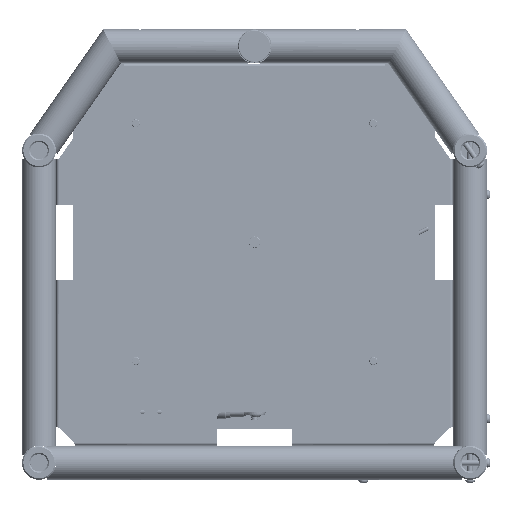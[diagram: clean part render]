
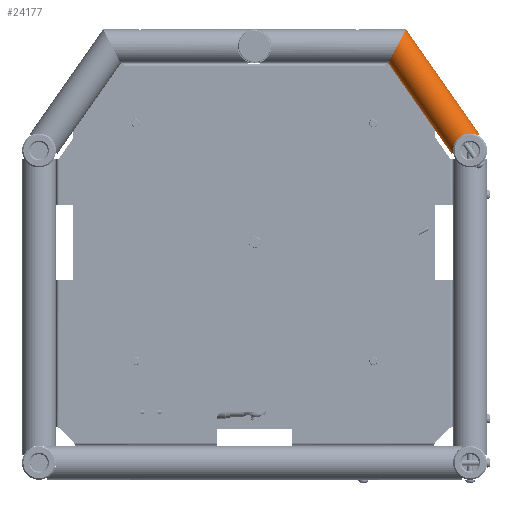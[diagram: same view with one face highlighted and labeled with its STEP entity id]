
A CAD part, front view. The second image highlights one B-rep face of the part: STEP entity #24177.
In plain terms, the highlighted cylindrical face has radius 25 mm (diameter 50 mm), a partial arc.
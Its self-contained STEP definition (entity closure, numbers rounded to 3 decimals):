
#680 = EDGE_CURVE ( 'NONE', #141112, #107035, #83963, .T. ) ;
#7632 = EDGE_CURVE ( 'NONE', #28263, #39580, #134545, .T. ) ;
#22585 = VECTOR ( 'NONE', #154451, 1000. ) ;
#24177 = ADVANCED_FACE ( 'NONE', ( #86279 ), #209979, .T. ) ;
#24485 = DIRECTION ( 'NONE',  ( 0.574, 0., -0.819 ) ) ;
#28263 = VERTEX_POINT ( 'NONE', #76675 ) ;
#28363 = DIRECTION ( 'NONE',  ( 0.819, 0., 0.574 ) ) ;
#29209 = CARTESIAN_POINT ( 'NONE',  ( 764.311, -345., 66.919 ) ) ;
#31433 = CARTESIAN_POINT ( 'NONE',  ( 676.636, -345., 235.718 ) ) ;
#33480 = CIRCLE ( 'NONE', #63004, 25. ) ;
#34713 = EDGE_CURVE ( 'NONE', #107035, #28263, #33480, .T. ) ;
#39580 = VERTEX_POINT ( 'NONE', #150646 ) ;
#40677 = CARTESIAN_POINT ( 'NONE',  ( 626.663, -345., 219.914 ) ) ;
#47126 = EDGE_LOOP ( 'NONE', ( #61435, #152954, #148734, #92318, #100371, #187056 ) ) ;
#48158 = CARTESIAN_POINT ( 'NONE',  ( 676.636, -395., 235.718 ) ) ;
#61435 = ORIENTED_EDGE ( 'NONE', *, *, #121978, .T. ) ;
#62414 =( BOUNDED_CURVE ( )  B_SPLINE_CURVE ( 3, ( #31433, #48158, #119639, #83888 ),
 .UNSPECIFIED., .F., .F. ) 
 B_SPLINE_CURVE_WITH_KNOTS ( ( 4, 4 ),
 ( 0., 3.142 ),
 .UNSPECIFIED. ) 
 CURVE ( )  GEOMETRIC_REPRESENTATION_ITEM ( )  RATIONAL_B_SPLINE_CURVE ( ( 1., 0.333, 0.333, 1. ) ) 
 REPRESENTATION_ITEM ( '' )  );
#62517 = DIRECTION ( 'NONE',  ( 0.574, 0., -0.819 ) ) ;
#63004 = AXIS2_PLACEMENT_3D ( 'NONE', #97610, #131155, #28363 ) ;
#76675 = CARTESIAN_POINT ( 'NONE',  ( 782.332, -356.874, 79.537 ) ) ;
#83888 = CARTESIAN_POINT ( 'NONE',  ( 650.607, -345., 185.718 ) ) ;
#83963 = LINE ( 'NONE', #207625, #22585 ) ;
#86279 = FACE_OUTER_BOUND ( 'NONE', #47126, .T. ) ;
#92318 = ORIENTED_EDGE ( 'NONE', *, *, #7632, .F. ) ;
#92577 = VECTOR ( 'NONE', #24485, 1000. ) ;
#97610 = CARTESIAN_POINT ( 'NONE',  ( 764.311, -345., 66.919 ) ) ;
#100371 = ORIENTED_EDGE ( 'NONE', *, *, #34713, .F. ) ;
#101042 = VERTEX_POINT ( 'NONE', #115548 ) ;
#104120 = CARTESIAN_POINT ( 'NONE',  ( 746.289, -356.874, 54.3 ) ) ;
#107035 = VERTEX_POINT ( 'NONE', #176789 ) ;
#111026 = EDGE_CURVE ( 'NONE', #177599, #39580, #167247, .T. ) ;
#115548 = CARTESIAN_POINT ( 'NONE',  ( 650.607, -345., 185.718 ) ) ;
#119639 = CARTESIAN_POINT ( 'NONE',  ( 650.607, -395., 185.718 ) ) ;
#121493 = CARTESIAN_POINT ( 'NONE',  ( 762.163, -376.731, 89.656 ) ) ;
#121978 = EDGE_CURVE ( 'NONE', #141112, #101042, #62414, .T. ) ;
#131155 = DIRECTION ( 'NONE',  ( 0.574, 0., -0.819 ) ) ;
#134545 =( BOUNDED_CURVE ( )  B_SPLINE_CURVE ( 3, ( #209387, #121493, #192019, #104120 ),
 .UNSPECIFIED., .F., .F. ) 
 B_SPLINE_CURVE_WITH_KNOTS ( ( 4, 4 ),
 ( 2.066, 4.217 ),
 .UNSPECIFIED. ) 
 CURVE ( )  GEOMETRIC_REPRESENTATION_ITEM ( )  RATIONAL_B_SPLINE_CURVE ( ( 1., 0.65, 0.65, 1. ) ) 
 REPRESENTATION_ITEM ( '' )  );
#138167 = CARTESIAN_POINT ( 'NONE',  ( 676.636, -345., 235.718 ) ) ;
#139453 = CARTESIAN_POINT ( 'NONE',  ( 647.142, -345., 234.253 ) ) ;
#141112 = VERTEX_POINT ( 'NONE', #138167 ) ;
#145762 = LINE ( 'NONE', #40677, #92577 ) ;
#148734 = ORIENTED_EDGE ( 'NONE', *, *, #111026, .T. ) ;
#150646 = CARTESIAN_POINT ( 'NONE',  ( 746.289, -356.874, 54.3 ) ) ;
#152954 = ORIENTED_EDGE ( 'NONE', *, *, #163825, .T. ) ;
#154451 = DIRECTION ( 'NONE',  ( 0.574, 0., -0.819 ) ) ;
#155035 = DIRECTION ( 'NONE',  ( -0.819, 0., -0.574 ) ) ;
#163825 = EDGE_CURVE ( 'NONE', #101042, #177599, #145762, .T. ) ;
#167247 = CIRCLE ( 'NONE', #200616, 25. ) ;
#176789 = CARTESIAN_POINT ( 'NONE',  ( 784.79, -345., 81.258 ) ) ;
#177599 = VERTEX_POINT ( 'NONE', #192698 ) ;
#179440 = AXIS2_PLACEMENT_3D ( 'NONE', #139453, #62517, #228462 ) ;
#187056 = ORIENTED_EDGE ( 'NONE', *, *, #680, .F. ) ;
#192019 = CARTESIAN_POINT ( 'NONE',  ( 743.679, -376.731, 76.713 ) ) ;
#192698 = CARTESIAN_POINT ( 'NONE',  ( 743.832, -345., 52.579 ) ) ;
#200616 = AXIS2_PLACEMENT_3D ( 'NONE', #29209, #207084, #155035 ) ;
#207084 = DIRECTION ( 'NONE',  ( -0.574, 0., 0.819 ) ) ;
#207625 = CARTESIAN_POINT ( 'NONE',  ( 667.621, -345., 248.592 ) ) ;
#209387 = CARTESIAN_POINT ( 'NONE',  ( 782.332, -356.874, 79.537 ) ) ;
#209979 = CYLINDRICAL_SURFACE ( 'NONE', #179440, 25. ) ;
#228462 = DIRECTION ( 'NONE',  ( 0.819, 0., 0.574 ) ) ;
